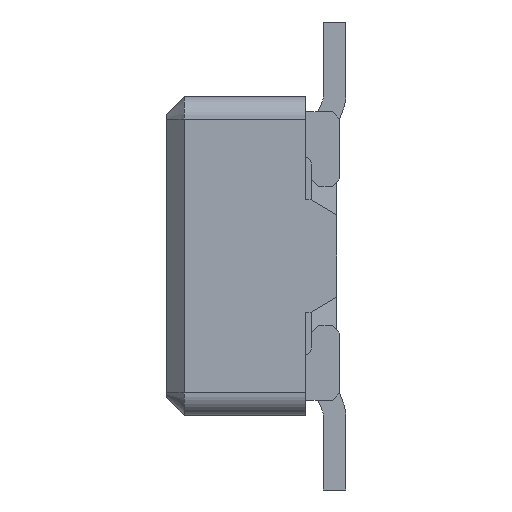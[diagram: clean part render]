
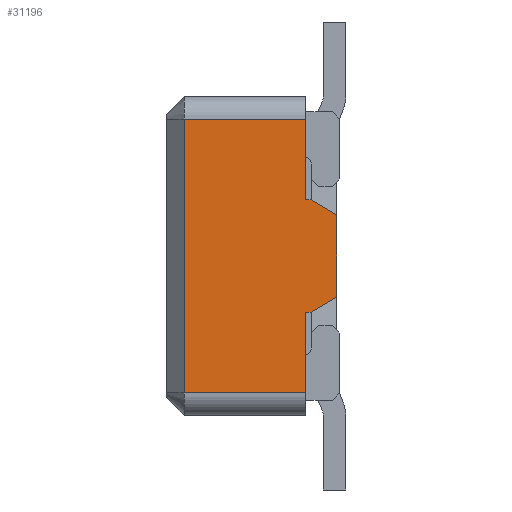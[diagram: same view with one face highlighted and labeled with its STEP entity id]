
A CAD part, left-side view. The second image highlights one B-rep face of the part: STEP entity #31196.
In plain terms, the highlighted planar face has unit normal (-1, 0, 0).
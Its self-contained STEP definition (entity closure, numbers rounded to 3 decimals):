
#4964=DIRECTION('',(0.,0.,-1.));
#4965=VECTOR('',#4964,1.83);
#4966=CARTESIAN_POINT('',(-6.4,0.45,
0.915));
#4967=LINE('',#4966,#4965);
#4968=DIRECTION('',(0.,-1.,0.));
#4969=VECTOR('',#4968,0.81);
#4970=CARTESIAN_POINT('',(-6.4,0.45,
0.915));
#4971=LINE('',#4970,#4969);
#4972=DIRECTION('',(0.,-1.,0.));
#4973=VECTOR('',#4972,0.04);
#4974=CARTESIAN_POINT('',(-6.4,-0.36,0.375));
#4975=LINE('',#4974,#4973);
#4976=DIRECTION('',(0.,0.862,0.507));
#4977=VECTOR('',#4976,0.197);
#4978=CARTESIAN_POINT('',(-6.4,-0.57,0.275));
#4979=LINE('',#4978,#4977);
#4980=DIRECTION('',(0.,-0.862,0.507));
#4981=VECTOR('',#4980,0.197);
#4982=CARTESIAN_POINT('',(-6.4,-0.4,-0.375));
#4983=LINE('',#4982,#4981);
#4984=DIRECTION('',(0.,-1.,0.));
#4985=VECTOR('',#4984,0.04);
#4986=CARTESIAN_POINT('',(-6.4,-0.36,-0.375));
#4987=LINE('',#4986,#4985);
#4988=DIRECTION('',(0.,1.,0.));
#4989=VECTOR('',#4988,0.81);
#4990=CARTESIAN_POINT('',(-6.4,-0.36,-0.915));
#4991=LINE('',#4990,#4989);
#5034=DIRECTION('',(0.,0.,1.));
#5035=VECTOR('',#5034,0.54);
#5036=CARTESIAN_POINT('',(-6.4,-0.36,0.375));
#5037=LINE('',#5036,#5035);
#5117=DIRECTION('',(0.,0.,1.));
#5118=VECTOR('',#5117,0.54);
#5119=CARTESIAN_POINT('',(-6.4,-0.36,-0.915));
#5120=LINE('',#5119,#5118);
#5189=DIRECTION('',(0.,0.,1.));
#5190=VECTOR('',#5189,0.55);
#5191=CARTESIAN_POINT('',(-6.4,-0.57,-0.275));
#5192=LINE('',#5191,#5190);
#20783=CARTESIAN_POINT('',(-6.4,-0.36,0.375));
#20785=VERTEX_POINT('',#20783);
#20788=CARTESIAN_POINT('',(-6.4,-0.36,-0.375));
#20790=VERTEX_POINT('',#20788);
#21119=CARTESIAN_POINT('',(-6.4,-0.36,-0.915));
#21121=VERTEX_POINT('',#21119);
#21124=CARTESIAN_POINT('',(-6.4,-0.36,0.915));
#21126=VERTEX_POINT('',#21124);
#21127=CARTESIAN_POINT('',(-6.4,0.45,-0.915));
#21129=VERTEX_POINT('',#21127);
#21152=CARTESIAN_POINT('',(-6.4,0.45,0.915));
#21154=VERTEX_POINT('',#21152);
#21169=CARTESIAN_POINT('',(-6.4,-0.57,0.275));
#21170=CARTESIAN_POINT('',(-6.4,-0.4,0.375));
#21171=VERTEX_POINT('',#21169);
#21172=VERTEX_POINT('',#21170);
#21173=CARTESIAN_POINT('',(-6.4,-0.4,-0.375));
#21174=CARTESIAN_POINT('',(-6.4,-0.57,-0.275));
#21175=VERTEX_POINT('',#21173);
#21176=VERTEX_POINT('',#21174);
#31170=CARTESIAN_POINT('',(-6.4,0.57,-1.065));
#31171=DIRECTION('',(-1.,0.,0.));
#31172=DIRECTION('',(0.,-1.,0.));
#31173=AXIS2_PLACEMENT_3D('',#31170,#31171,#31172);
#31174=PLANE('',#31173);
#31176=ORIENTED_EDGE('',*,*,#31175,.F.);
#31178=ORIENTED_EDGE('',*,*,#31177,.T.);
#31180=ORIENTED_EDGE('',*,*,#31179,.F.);
#31182=ORIENTED_EDGE('',*,*,#31181,.T.);
#31184=ORIENTED_EDGE('',*,*,#31183,.F.);
#31186=ORIENTED_EDGE('',*,*,#31185,.F.);
#31188=ORIENTED_EDGE('',*,*,#31187,.F.);
#31190=ORIENTED_EDGE('',*,*,#31189,.F.);
#31192=ORIENTED_EDGE('',*,*,#31191,.F.);
#31193=ORIENTED_EDGE('',*,*,#31162,.T.);
#31194=EDGE_LOOP('',(#31176,#31178,#31180,#31182,#31184,#31186,#31188,#31190,
#31192,#31193));
#31195=FACE_OUTER_BOUND('',#31194,.F.);
#31196=ADVANCED_FACE('',(#31195),#31174,.T.);
#31162=EDGE_CURVE('',#21121,#21129,#4991,.T.);
#31175=EDGE_CURVE('',#21154,#21129,#4967,.T.);
#31177=EDGE_CURVE('',#21154,#21126,#4971,.T.);
#31179=EDGE_CURVE('',#20785,#21126,#5037,.T.);
#31181=EDGE_CURVE('',#20785,#21172,#4975,.T.);
#31183=EDGE_CURVE('',#21171,#21172,#4979,.T.);
#31185=EDGE_CURVE('',#21176,#21171,#5192,.T.);
#31187=EDGE_CURVE('',#21175,#21176,#4983,.T.);
#31189=EDGE_CURVE('',#20790,#21175,#4987,.T.);
#31191=EDGE_CURVE('',#21121,#20790,#5120,.T.);
